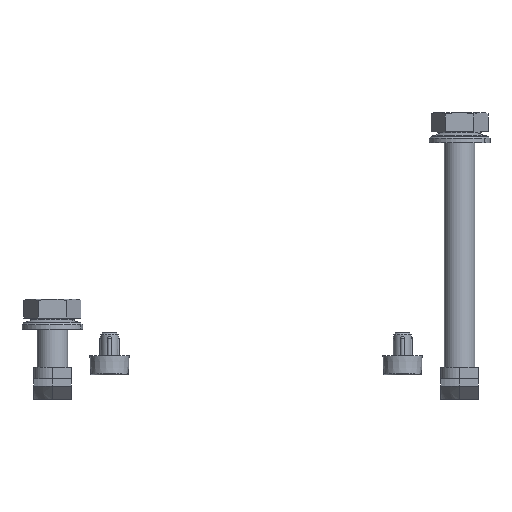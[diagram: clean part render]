
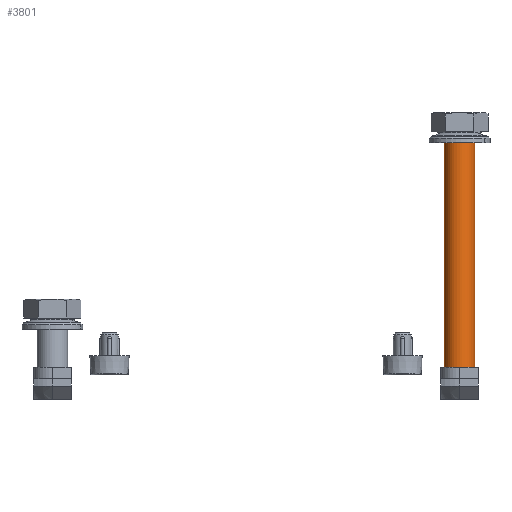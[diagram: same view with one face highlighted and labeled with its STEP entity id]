
A CAD part, front view. The second image highlights one B-rep face of the part: STEP entity #3801.
In plain terms, the highlighted cylindrical face has radius 4 mm (diameter 8 mm), a partial arc.
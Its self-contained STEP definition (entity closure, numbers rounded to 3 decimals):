
#29 = LINE ( 'NONE', #3444, #4383 ) ;
#227 = DIRECTION ( 'NONE',  ( 0., 0., -1. ) ) ;
#514 = CARTESIAN_POINT ( 'NONE',  ( -4., 0., -5.3 ) ) ;
#726 = CIRCLE ( 'NONE', #3274, 4. ) ;
#885 = DIRECTION ( 'NONE',  ( 0., 0., 1. ) ) ;
#980 = VERTEX_POINT ( 'NONE', #5180 ) ;
#1430 = VECTOR ( 'NONE', #2817, 1000. ) ;
#1636 = DIRECTION ( 'NONE',  ( -1., 0., 0. ) ) ;
#1975 = EDGE_CURVE ( 'NONE', #980, #4029, #4697, .T. ) ;
#2004 = DIRECTION ( 'NONE',  ( 0., 0., 1. ) ) ;
#2092 = CARTESIAN_POINT ( 'NONE',  ( -4., 0., -70.3 ) ) ;
#2304 = CARTESIAN_POINT ( 'NONE',  ( 4., 0., -69.5 ) ) ;
#2663 = VERTEX_POINT ( 'NONE', #2304 ) ;
#2753 = CARTESIAN_POINT ( 'NONE',  ( 0., 0., -5.3 ) ) ;
#2817 = DIRECTION ( 'NONE',  ( 0., 0., 1. ) ) ;
#2896 = CARTESIAN_POINT ( 'NONE',  ( 0., 0., -70.3 ) ) ;
#3014 = AXIS2_PLACEMENT_3D ( 'NONE', #2896, #4612, #1636 ) ;
#3072 = ORIENTED_EDGE ( 'NONE', *, *, #1975, .F. ) ;
#3098 = CARTESIAN_POINT ( 'NONE',  ( 4., 0., -5.3 ) ) ;
#3205 = DIRECTION ( 'NONE',  ( 1., 0., 0. ) ) ;
#3274 = AXIS2_PLACEMENT_3D ( 'NONE', #2753, #227, #3205 ) ;
#3443 = EDGE_CURVE ( 'NONE', #2663, #4045, #29, .T. ) ;
#3444 = CARTESIAN_POINT ( 'NONE',  ( 4., 0., -70.3 ) ) ;
#3475 = CIRCLE ( 'NONE', #5496, 4. ) ;
#3776 = ORIENTED_EDGE ( 'NONE', *, *, #4602, .T. ) ;
#3793 = CYLINDRICAL_SURFACE ( 'NONE', #3014, 4. ) ;
#3801 = ADVANCED_FACE ( 'NONE', ( #3910 ), #3793, .T. ) ;
#3910 = FACE_OUTER_BOUND ( 'NONE', #5231, .T. ) ;
#4029 = VERTEX_POINT ( 'NONE', #514 ) ;
#4045 = VERTEX_POINT ( 'NONE', #3098 ) ;
#4159 = ORIENTED_EDGE ( 'NONE', *, *, #3443, .T. ) ;
#4278 = EDGE_CURVE ( 'NONE', #980, #2663, #3475, .T. ) ;
#4383 = VECTOR ( 'NONE', #885, 1000. ) ;
#4516 = ORIENTED_EDGE ( 'NONE', *, *, #4278, .T. ) ;
#4539 = CARTESIAN_POINT ( 'NONE',  ( 0., 0., -69.5 ) ) ;
#4602 = EDGE_CURVE ( 'NONE', #4045, #4029, #726, .T. ) ;
#4612 = DIRECTION ( 'NONE',  ( 0., 0., 1. ) ) ;
#4697 = LINE ( 'NONE', #2092, #1430 ) ;
#4984 = DIRECTION ( 'NONE',  ( 1., 0., 0. ) ) ;
#5180 = CARTESIAN_POINT ( 'NONE',  ( -4., 0., -69.5 ) ) ;
#5231 = EDGE_LOOP ( 'NONE', ( #4516, #4159, #3776, #3072 ) ) ;
#5496 = AXIS2_PLACEMENT_3D ( 'NONE', #4539, #2004, #4984 ) ;
